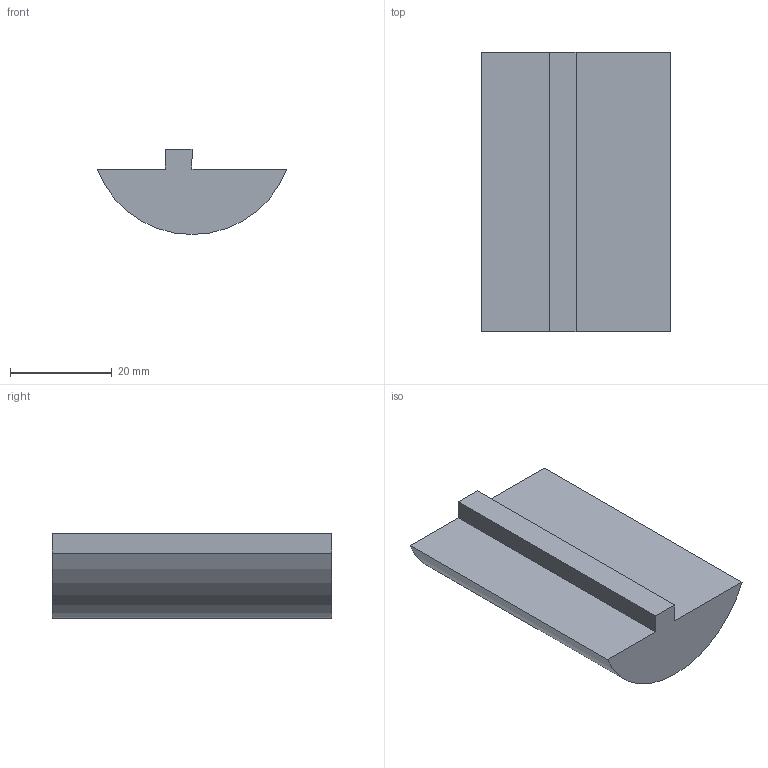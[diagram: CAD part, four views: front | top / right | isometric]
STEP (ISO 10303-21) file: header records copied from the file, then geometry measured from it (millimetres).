
FILE_DESCRIPTION(/* description */ (''),/* implementation_level */ '2;1');
FILE_NAME(/* name */ 'Z:\Projektname\Bauteile\Muster_Forum\Neuer Ordner\STEP\Klemplatte_2.step',/* time_stamp */ '2025-02-17T07:16:22+01:00',/* author */ ('MVM1'),/* organization */ (''),/* preprocessor_version */ 'ST-DEVELOPER v19',/* originating_system */ 'Autodesk Inventor 2023',/* authorisation */ '');
FILE_SCHEMA (('CONFIG_CONTROL_DESIGN'));
Length unit declared in the file: millimetre
Products named in the file (1): Klemplatte_2
Bounding box: 37.38 x 55 x 16.73 mm (x, y, z)
Volume: 20344.3 mm3; surface area: 5873.8 mm2
Topology: 1 solids, 1 shells, 8 faces, 18 edges, 12 vertices
Faces by surface type: plane 7, cylinder 1
Entity records: 284 total; most frequent: CARTESIAN_POINT 39, DIRECTION 38, ORIENTED_EDGE 36, EDGE_CURVE 18, LINE 16, VECTOR 16, VERTEX_POINT 12, AXIS2_PLACEMENT_3D 11
